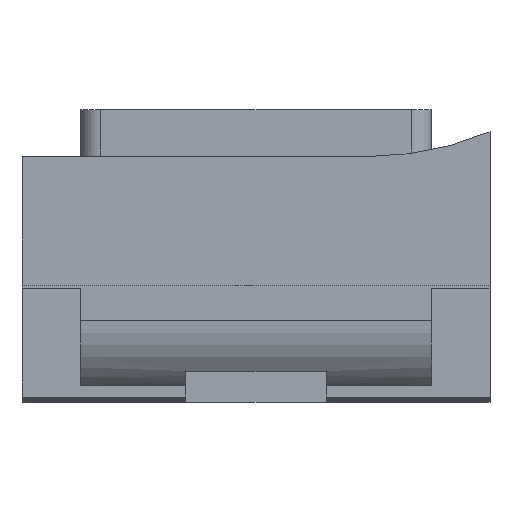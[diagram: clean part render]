
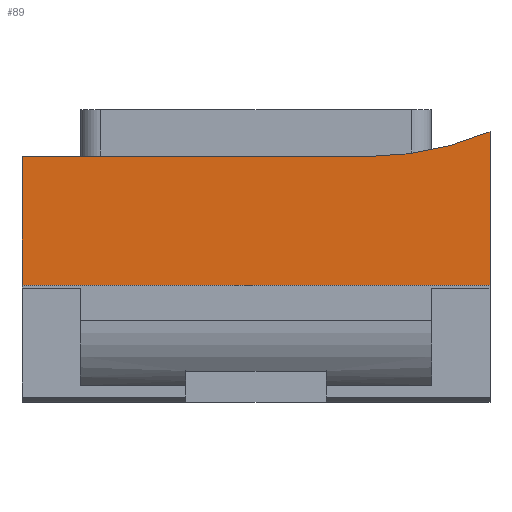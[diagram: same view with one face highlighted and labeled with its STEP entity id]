
A CAD part, left-side view. The second image highlights one B-rep face of the part: STEP entity #89.
In plain terms, the highlighted planar face has unit normal (-1, 0, 0).
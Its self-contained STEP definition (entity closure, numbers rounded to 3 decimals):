
#89 = ADVANCED_FACE('',(#90),#104,.F.);
#90 = FACE_BOUND('',#91,.F.);
#91 = EDGE_LOOP('',(#92,#125,#153,#179,#207));
#92 = ORIENTED_EDGE('',*,*,#93,.F.);
#93 = EDGE_CURVE('',#94,#96,#98,.T.);
#94 = VERTEX_POINT('',#95);
#95 = CARTESIAN_POINT('',(-42.8,-16.,-9.));
#96 = VERTEX_POINT('',#97);
#97 = CARTESIAN_POINT('',(-42.8,-16.,-6.375));
#98 = SURFACE_CURVE('',#99,(#103,#114),.PCURVE_S1.);
#99 = LINE('',#100,#101);
#100 = CARTESIAN_POINT('',(-42.8,-16.,-12.125));
#101 = VECTOR('',#102,1.);
#102 = DIRECTION('',(0.,0.,1.));
#103 = PCURVE('',#104,#109);
#104 = PLANE('',#105);
#105 = AXIS2_PLACEMENT_3D('',#106,#107,#108);
#106 = CARTESIAN_POINT('',(-42.8,-66.8,-13.2));
#107 = DIRECTION('',(1.,0.,0.));
#108 = DIRECTION('',(0.,0.,1.));
#109 = DEFINITIONAL_REPRESENTATION('',(#110),#113);
#110 = B_SPLINE_CURVE_WITH_KNOTS('',1,(#111,#112),.UNSPECIFIED.,.F.,.F.,
  (2,2),(3.125,6.325),.PIECEWISE_BEZIER_KNOTS.);
#111 = CARTESIAN_POINT('',(4.2,-50.8));
#112 = CARTESIAN_POINT('',(7.4,-50.8));
#113 = ( GEOMETRIC_REPRESENTATION_CONTEXT(2) 
PARAMETRIC_REPRESENTATION_CONTEXT() REPRESENTATION_CONTEXT('2D SPACE',''
  ) );
#114 = PCURVE('',#115,#120);
#115 = PLANE('',#116);
#116 = AXIS2_PLACEMENT_3D('',#117,#118,#119);
#117 = CARTESIAN_POINT('',(-43.,-16.,-11.05));
#118 = DIRECTION('',(0.,1.,0.));
#119 = DIRECTION('',(0.,0.,1.));
#120 = DEFINITIONAL_REPRESENTATION('',(#121),#124);
#121 = B_SPLINE_CURVE_WITH_KNOTS('',1,(#122,#123),.UNSPECIFIED.,.F.,.F.,
  (2,2),(3.125,6.325),.PIECEWISE_BEZIER_KNOTS.);
#122 = CARTESIAN_POINT('',(2.05,0.2));
#123 = CARTESIAN_POINT('',(5.25,0.2));
#124 = ( GEOMETRIC_REPRESENTATION_CONTEXT(2) 
PARAMETRIC_REPRESENTATION_CONTEXT() REPRESENTATION_CONTEXT('2D SPACE',''
  ) );
#125 = ORIENTED_EDGE('',*,*,#126,.F.);
#126 = EDGE_CURVE('',#127,#94,#129,.T.);
#127 = VERTEX_POINT('',#128);
#128 = CARTESIAN_POINT('',(-42.8,-8.,-9.));
#129 = SURFACE_CURVE('',#130,(#134,#141),.PCURVE_S1.);
#130 = LINE('',#131,#132);
#131 = CARTESIAN_POINT('',(-42.8,-88.4,-9.));
#132 = VECTOR('',#133,1.);
#133 = DIRECTION('',(0.,-1.,0.));
#134 = PCURVE('',#104,#135);
#135 = DEFINITIONAL_REPRESENTATION('',(#136),#140);
#136 = LINE('',#137,#138);
#137 = CARTESIAN_POINT('',(4.2,21.6));
#138 = VECTOR('',#139,1.);
#139 = DIRECTION('',(0.,1.));
#140 = ( GEOMETRIC_REPRESENTATION_CONTEXT(2) 
PARAMETRIC_REPRESENTATION_CONTEXT() REPRESENTATION_CONTEXT('2D SPACE',''
  ) );
#141 = PCURVE('',#142,#147);
#142 = PLANE('',#143);
#143 = AXIS2_PLACEMENT_3D('',#144,#145,#146);
#144 = CARTESIAN_POINT('',(-100.,-110.,-9.));
#145 = DIRECTION('',(0.,0.,1.));
#146 = DIRECTION('',(1.,0.,-0.));
#147 = DEFINITIONAL_REPRESENTATION('',(#148),#152);
#148 = LINE('',#149,#150);
#149 = CARTESIAN_POINT('',(57.2,21.6));
#150 = VECTOR('',#151,1.);
#151 = DIRECTION('',(0.,-1.));
#152 = ( GEOMETRIC_REPRESENTATION_CONTEXT(2) 
PARAMETRIC_REPRESENTATION_CONTEXT() REPRESENTATION_CONTEXT('2D SPACE',''
  ) );
#153 = ORIENTED_EDGE('',*,*,#154,.T.);
#154 = EDGE_CURVE('',#127,#155,#157,.T.);
#155 = VERTEX_POINT('',#156);
#156 = CARTESIAN_POINT('',(-42.8,-8.,-6.8));
#157 = SURFACE_CURVE('',#158,(#162,#168),.PCURVE_S1.);
#158 = LINE('',#159,#160);
#159 = CARTESIAN_POINT('',(-42.8,-8.,-12.125));
#160 = VECTOR('',#161,1.);
#161 = DIRECTION('',(0.,0.,1.));
#162 = PCURVE('',#104,#163);
#163 = DEFINITIONAL_REPRESENTATION('',(#164),#167);
#164 = B_SPLINE_CURVE_WITH_KNOTS('',1,(#165,#166),.UNSPECIFIED.,.F.,.F.,
  (2,2),(3.125,6.325),.PIECEWISE_BEZIER_KNOTS.);
#165 = CARTESIAN_POINT('',(4.2,-58.8));
#166 = CARTESIAN_POINT('',(7.4,-58.8));
#167 = ( GEOMETRIC_REPRESENTATION_CONTEXT(2) 
PARAMETRIC_REPRESENTATION_CONTEXT() REPRESENTATION_CONTEXT('2D SPACE',''
  ) );
#168 = PCURVE('',#169,#174);
#169 = PLANE('',#170);
#170 = AXIS2_PLACEMENT_3D('',#171,#172,#173);
#171 = CARTESIAN_POINT('',(-43.,-8.,-11.05));
#172 = DIRECTION('',(0.,1.,0.));
#173 = DIRECTION('',(0.,0.,1.));
#174 = DEFINITIONAL_REPRESENTATION('',(#175),#178);
#175 = B_SPLINE_CURVE_WITH_KNOTS('',1,(#176,#177),.UNSPECIFIED.,.F.,.F.,
  (2,2),(3.125,6.325),.PIECEWISE_BEZIER_KNOTS.);
#176 = CARTESIAN_POINT('',(2.05,0.2));
#177 = CARTESIAN_POINT('',(5.25,0.2));
#178 = ( GEOMETRIC_REPRESENTATION_CONTEXT(2) 
PARAMETRIC_REPRESENTATION_CONTEXT() REPRESENTATION_CONTEXT('2D SPACE',''
  ) );
#179 = ORIENTED_EDGE('',*,*,#180,.F.);
#180 = EDGE_CURVE('',#181,#155,#183,.T.);
#181 = VERTEX_POINT('',#182);
#182 = CARTESIAN_POINT('',(-42.8,-13.9,-6.8));
#183 = SURFACE_CURVE('',#184,(#188,#195),.PCURVE_S1.);
#184 = LINE('',#185,#186);
#185 = CARTESIAN_POINT('',(-42.8,-43.05,-6.8));
#186 = VECTOR('',#187,1.);
#187 = DIRECTION('',(-0.,1.,0.));
#188 = PCURVE('',#104,#189);
#189 = DEFINITIONAL_REPRESENTATION('',(#190),#194);
#190 = LINE('',#191,#192);
#191 = CARTESIAN_POINT('',(6.4,-23.75));
#192 = VECTOR('',#193,1.);
#193 = DIRECTION('',(0.,-1.));
#194 = ( GEOMETRIC_REPRESENTATION_CONTEXT(2) 
PARAMETRIC_REPRESENTATION_CONTEXT() REPRESENTATION_CONTEXT('2D SPACE',''
  ) );
#195 = PCURVE('',#196,#201);
#196 = PLANE('',#197);
#197 = AXIS2_PLACEMENT_3D('',#198,#199,#200);
#198 = CARTESIAN_POINT('',(-48.,-19.3,-6.8));
#199 = DIRECTION('',(0.,0.,-1.));
#200 = DIRECTION('',(1.,0.,0.));
#201 = DEFINITIONAL_REPRESENTATION('',(#202),#206);
#202 = LINE('',#203,#204);
#203 = CARTESIAN_POINT('',(5.2,23.75));
#204 = VECTOR('',#205,1.);
#205 = DIRECTION('',(0.,-1.));
#206 = ( GEOMETRIC_REPRESENTATION_CONTEXT(2) 
PARAMETRIC_REPRESENTATION_CONTEXT() REPRESENTATION_CONTEXT('2D SPACE',''
  ) );
#207 = ORIENTED_EDGE('',*,*,#208,.F.);
#208 = EDGE_CURVE('',#96,#181,#209,.T.);
#209 = SURFACE_CURVE('',#210,(#215,#222),.PCURVE_S1.);
#210 = CIRCLE('',#211,5.4);
#211 = AXIS2_PLACEMENT_3D('',#212,#213,#214);
#212 = CARTESIAN_POINT('',(-42.8,-13.9,-1.4));
#213 = DIRECTION('',(1.,0.,0.));
#214 = DIRECTION('',(0.,0.,-1.));
#215 = PCURVE('',#104,#216);
#216 = DEFINITIONAL_REPRESENTATION('',(#217),#221);
#217 = CIRCLE('',#218,5.4);
#218 = AXIS2_PLACEMENT_2D('',#219,#220);
#219 = CARTESIAN_POINT('',(11.8,-52.9));
#220 = DIRECTION('',(-1.,0.));
#221 = ( GEOMETRIC_REPRESENTATION_CONTEXT(2) 
PARAMETRIC_REPRESENTATION_CONTEXT() REPRESENTATION_CONTEXT('2D SPACE',''
  ) );
#222 = PCURVE('',#223,#228);
#223 = CYLINDRICAL_SURFACE('',#224,5.4);
#224 = AXIS2_PLACEMENT_3D('',#225,#226,#227);
#225 = CARTESIAN_POINT('',(-48.,-13.9,-1.4));
#226 = DIRECTION('',(1.,0.,0.));
#227 = DIRECTION('',(0.,0.,-1.));
#228 = DEFINITIONAL_REPRESENTATION('',(#229),#233);
#229 = LINE('',#230,#231);
#230 = CARTESIAN_POINT('',(0.,5.2));
#231 = VECTOR('',#232,1.);
#232 = DIRECTION('',(1.,-0.));
#233 = ( GEOMETRIC_REPRESENTATION_CONTEXT(2) 
PARAMETRIC_REPRESENTATION_CONTEXT() REPRESENTATION_CONTEXT('2D SPACE',''
  ) );
